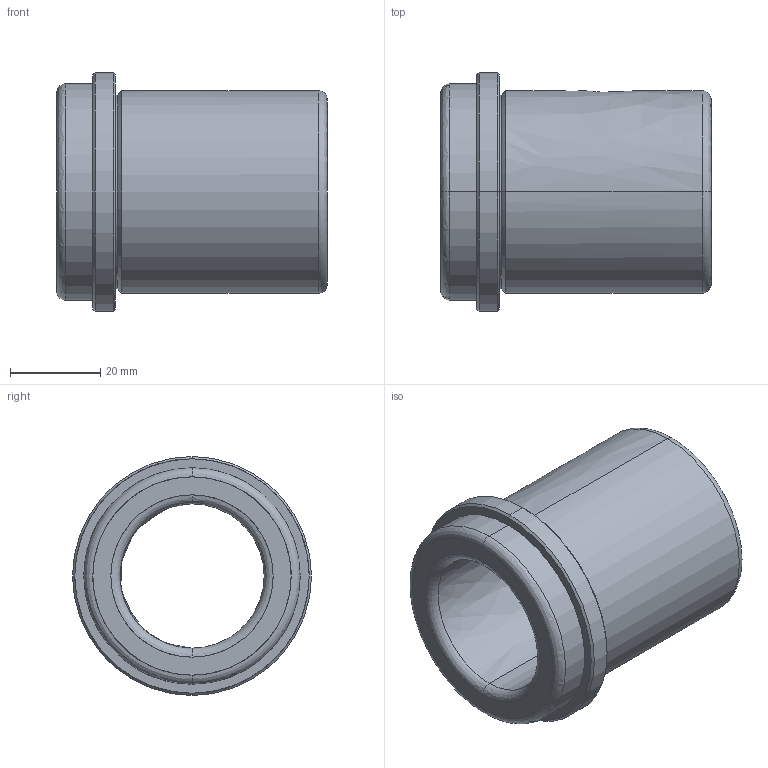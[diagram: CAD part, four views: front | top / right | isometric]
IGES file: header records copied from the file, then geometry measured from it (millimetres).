
Start section: START RECORD GO HERE.
Global section: file name: CF 632 32 x 60.igs; native system: DASSAULT SYSTEMES CATIA V5 R20 - www.3ds.com; preprocessor: CATIA Version 5 Release 20 ; author: Utente; organization: NB04-ASUS; date: 20201226.203546; units: millimetre
Bounding box: 60 x 53 x 53 mm (x, y, z)
Surface area: 17446.5 mm2 (no closed solid volume)
Topology: 0 solids, 0 shells, 33 faces, 212 edges, 212 vertices
Faces by surface type: revolution 28, plane 5
